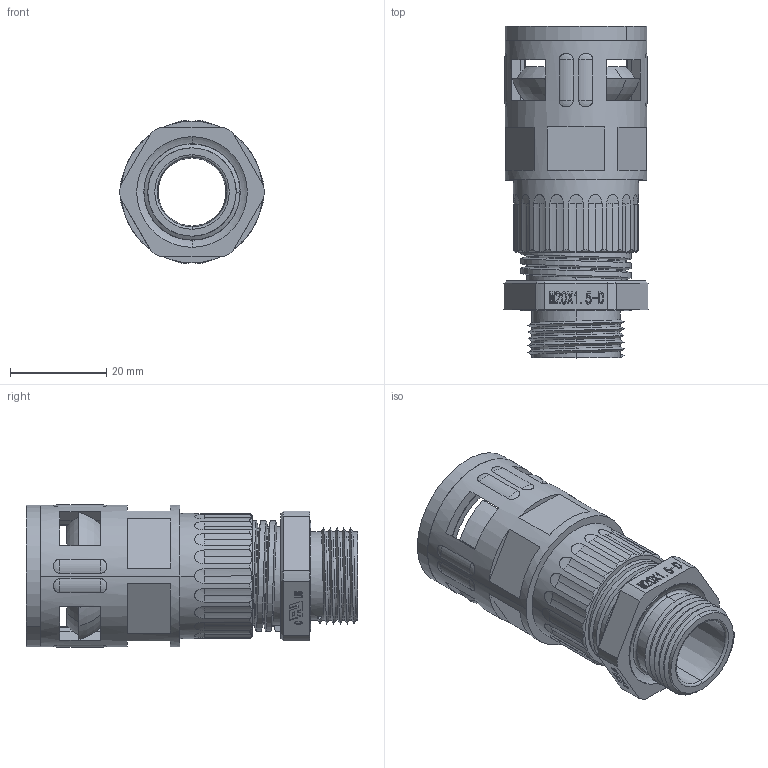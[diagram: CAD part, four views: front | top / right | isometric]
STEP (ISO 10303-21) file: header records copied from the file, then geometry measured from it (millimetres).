
FILE_DESCRIPTION (( 'STEP AP203' ), '1' );
FILE_NAME ('WQGZ-M20-AD21.2.STEP', '2018-09-14T01:59:43', ( '' ), ( '' ), 'SwSTEP 2.0', 'SolidWorks 2016', '' );
FILE_SCHEMA (( 'CONFIG_CONTROL_DESIGN' ));
Length unit declared in the file: millimetre
Products named in the file (8): 蚾饜极; CTH-P16; WQGZ-M20-AD21.2; HSK-M20-D-01; WQG2-Tr38-AD23-AD21.2; WQG2-Tr23-AD21.2-01; GFD-AD21.2; NSK-AD21.2
Assembly tree (7 placements, depth 3):
  WQGZ-M20-AD21.2
    WQG2-Tr38-AD23-AD21.2
      WQG2-Tr23-AD21.2-01
      GFD-AD21.2
      NSK-AD21.2
    蚾饜极
      HSK-M20-D-01
      CTH-P16
Bounding box: 29.99 x 69 x 29.69 mm (x, y, z)
Volume: 19139.5 mm3; surface area: 21251.7 mm2
Topology: 8 solids, 8 shells, 719 faces, 1936 edges, 1240 vertices
Faces by surface type: plane 371, cylinder 129, cone 78, torus 55, bspline 50, sphere 36
Entity records: 29358 total; most frequent: CARTESIAN_POINT 11227, ORIENTED_EDGE 3768, DIRECTION 3379, EDGE_CURVE 1884, VERTEX_POINT 1224, AXIS2_PLACEMENT_3D 1191, VECTOR 997, LINE 997
